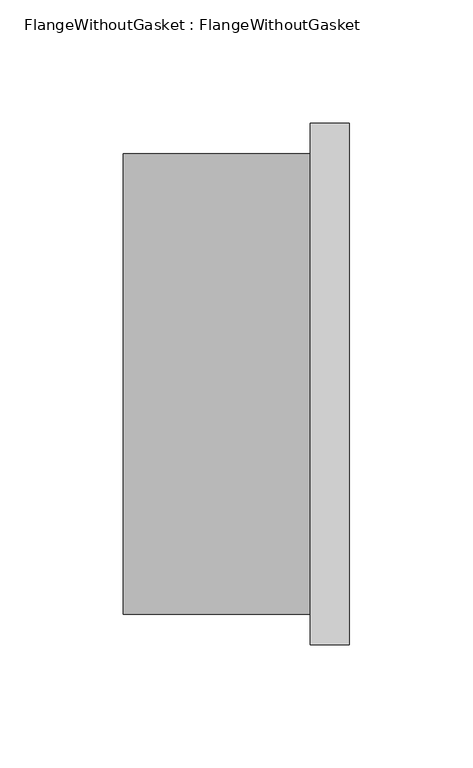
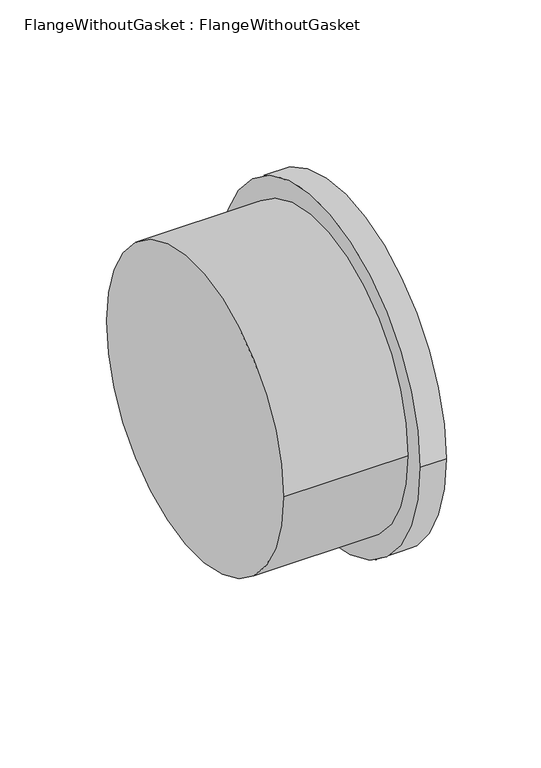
"""IFC4 building model written with IfcOpenShell, lengths in millimetres: pipe fitting geometry, FlangeWithoutGasket : FlangeWithoutGasket."""

import ifcopenshell
import ifcopenshell.guid

model = None  # the IFC model being written
_history = None  # IfcOwnerHistory: only IFC2X3 demands one
_inside = {}  # id of a spatial element -> (the spatial element, [elements in it])
_under = {}  # id of a project, library or spatial element -> (it, [spatial elements below it])
_declared = {}  # id of a project -> (the project, [libraries it declares])
_typed = {}  # id of a type object -> (the type object, [elements of that type])
_made_of = {}  # id of a material, layer set ... -> (it, [elements and type objects made of it])


def new_model(schema):
    """Start an empty IFC model of exactly this schema.

    Asked for "IFC4X3", IfcOpenShell would pick the latest addendum, in which some entities
    have other attributes; the version numbers below select the first issue.
    IFC2X3 requires an IfcOwnerHistory on every rooted entity: one is made here for all.
    """
    global model, _history
    if schema == "IFC4X3":
        model = ifcopenshell.file(schema_version=(4, 3, 0, 0))
    else:
        model = ifcopenshell.file(schema=schema)
    _inside.clear()
    _under.clear()
    _declared.clear()
    _typed.clear()
    _made_of.clear()
    _history = None
    if model.schema == "IFC2X3":
        org = make("IfcOrganization", Name="unknown")
        user = make(
            "IfcPersonAndOrganization",
            ThePerson=make("IfcPerson", FamilyName="unknown"),
            TheOrganization=org,
        )
        app = make(
            "IfcApplication",
            ApplicationDeveloper=org,
            Version="unknown",
            ApplicationFullName="unknown",
            ApplicationIdentifier="unknown",
        )
        _history = make(
            "IfcOwnerHistory",
            OwningUser=user,
            OwningApplication=app,
            ChangeAction="ADDED",
            CreationDate=0,
        )
    return model


def make(cls, **values):
    """One entity of the class cls with the attributes given. An attribute that is None is left unset."""
    return model.create_entity(
        cls, **{name: value for name, value in values.items() if value is not None}
    )


def rooted(cls, **values):
    """An entity with a GlobalId (a new one), such as an element, a storey or a relation."""
    return make(cls, GlobalId=ifcopenshell.guid.new(), OwnerHistory=_history, **values)


def si_unit(unit_type, name, prefix=None):
    """IfcSIUnit, for example si_unit("LENGTHUNIT", "METRE", prefix="MILLI")."""
    return make("IfcSIUnit", UnitType=unit_type, Prefix=prefix, Name=name)


def assignment(units):
    """IfcUnitAssignment: the units of a project."""
    return None if units is None else make("IfcUnitAssignment", Units=units)


def point(xyz):
    """IfcCartesianPoint."""
    return None if xyz is None else make("IfcCartesianPoint", Coordinates=xyz)


def direction(xyz):
    """IfcDirection."""
    return None if xyz is None else make("IfcDirection", DirectionRatios=xyz)


def frame(location, z_axis=None, x_axis=None):
    """IfcAxis2Placement3D, a coordinate frame: its origin and axes. An axis left out is left unset."""
    return make(
        "IfcAxis2Placement3D",
        Location=point(location),
        Axis=direction(z_axis),
        RefDirection=direction(x_axis),
    )


def origin():
    """The frame at (0, 0, 0) with its axes left unset."""
    return frame((0.0, 0.0, 0.0))


def place(relative_to, where):
    """IfcLocalPlacement: puts the frame where relative to a parent placement (None: the world)."""
    return make(
        "IfcLocalPlacement", PlacementRelTo=relative_to, RelativePlacement=where
    )


def context(
    kind, dimensions, precision=None, world=None, true_north=None, identifier=None
):
    """IfcGeometricRepresentationContext, for example the 3D "Model" context."""
    return make(
        "IfcGeometricRepresentationContext",
        ContextIdentifier=identifier,
        ContextType=kind,
        CoordinateSpaceDimension=dimensions,
        Precision=precision,
        WorldCoordinateSystem=world,
        TrueNorth=true_north,
    )


def project(units=None, contexts=None):
    """IfcProject with its units and contexts."""
    return rooted(
        "IfcProject",
        Name="project",
        RepresentationContexts=contexts,
        UnitsInContext=assignment(units),
    )


def spatial(cls, under=None, at=None, **own):
    """A site, building, storey or space (cls), placed at a placement, below another one or the project."""
    s = rooted(cls, ObjectPlacement=at, **own)
    if under is not None:
        _under.setdefault(under.id(), (under, []))[1].append(s)
    return s


def circle_curve(where, radius):
    """IfcCircle in the frame where."""
    return make("IfcCircle", Position=where, Radius=radius)


def shape(context_of_items, identifier, shape_type, items):
    """IfcShapeRepresentation: the items that make up one representation, for example the "Body"."""
    return make(
        "IfcShapeRepresentation",
        ContextOfItems=context_of_items,
        RepresentationIdentifier=identifier,
        RepresentationType=shape_type,
        Items=items,
    )


def source(mapping_origin, context_of_items, identifier, shape_type, items):
    """IfcRepresentationMap: a shape defined once, which mapped items show again and again."""
    return make(
        "IfcRepresentationMap",
        MappingOrigin=mapping_origin,
        MappedRepresentation=shape(context_of_items, identifier, shape_type, items),
    )


def transform(
    local_origin,
    x_axis=None,
    y_axis=None,
    z_axis=None,
    scale=None,
    scale2=None,
    scale3=None,
    uniform=True,
):
    """IfcCartesianTransformationOperator3D, or its non-uniform kind. x_axis, y_axis, z_axis: its Axis1, 2, 3."""
    if uniform:
        return make(
            "IfcCartesianTransformationOperator3D",
            Axis1=direction(x_axis),
            Axis2=direction(y_axis),
            LocalOrigin=point(local_origin),
            Scale=scale,
            Axis3=direction(z_axis),
        )
    return make(
        "IfcCartesianTransformationOperator3DnonUniform",
        Axis1=direction(x_axis),
        Axis2=direction(y_axis),
        LocalOrigin=point(local_origin),
        Scale=scale,
        Axis3=direction(z_axis),
        Scale2=scale2,
        Scale3=scale3,
    )


def mapped(mapping_source, mapping_target):
    """IfcMappedItem: shows the shape of a source again, moved by a transform."""
    return make(
        "IfcMappedItem", MappingSource=mapping_source, MappingTarget=mapping_target
    )


def made_of(thing, what):
    """Note that an element or type object is made of a material, layer set ...; save() writes the relation."""
    if what is not None:
        _made_of.setdefault(what.id(), (what, []))[1].append(thing)
    return thing


def element(
    cls,
    number,
    at=None,
    inside=None,
    cuts=None,
    type_object=None,
    material=None,
    context=None,
    identifier="Body",
    shape_type=None,
    held_by="IfcProductDefinitionShape",
    body=None,
    shapes=None,
    **own,
):
    """One element of the class cls, such as IfcWall. Its Tag is "e" and its number.

    at: its placement. inside: the storey or other place that contains it. cuts: it is an
    opening in that element (IfcRelVoidsElement). A single representation is given by context,
    identifier, shape_type and body (its items); several are given by shapes. held_by: the class
    of the entity that holds the representations. save() writes the other relations.
    """
    e = rooted(cls, Tag="e%d" % number, ObjectPlacement=at, **own)
    if body is not None:
        shapes = [shape(context, identifier, shape_type, body)]
    if shapes is not None:
        e.Representation = make(held_by, Representations=shapes)
    if inside is not None:
        _inside.setdefault(inside.id(), (inside, []))[1].append(e)
    if cuts is not None:
        rooted(
            "IfcRelVoidsElement", RelatingBuildingElement=cuts, RelatedOpeningElement=e
        )
    if type_object is not None:
        _typed.setdefault(type_object.id(), (type_object, []))[1].append(e)
    return made_of(e, material)


def aggregate(whole, parts):
    """IfcRelAggregates: a whole, such as a stair, and the parts it consists of."""
    return rooted("IfcRelAggregates", RelatingObject=whole, RelatedObjects=parts)


def save(model, path):
    """Write the relations noted so far, then the file.

    IfcRelAggregates (storeys below a building ...), IfcRelContainedInSpatialStructure (elements
    in a storey), IfcRelDefinesByType, IfcRelAssociatesMaterial and IfcRelDeclares: one each for
    every whole, place, type object, material and project.
    """
    for whole, parts in _under.values():
        aggregate(whole, parts)
    for where, things in _inside.values():
        rooted(
            "IfcRelContainedInSpatialStructure",
            RelatedElements=things,
            RelatingStructure=where,
        )
    for kind, things in _typed.values():
        rooted("IfcRelDefinesByType", RelatedObjects=things, RelatingType=kind)
    for what, things in _made_of.values():
        rooted("IfcRelAssociatesMaterial", RelatedObjects=things, RelatingMaterial=what)
    for by, libraries in _declared.values():
        rooted("IfcRelDeclares", RelatingContext=by, RelatedDefinitions=libraries)
    model.write(path)


def plane_surface(at):
    """IfcPlane: the flat surface through the origin of the frame at, square to its z axis."""
    return make("IfcPlane", Position=at)


def cylinder_surface(at, radius):
    """IfcCylindricalSurface: all points at the distance radius from the z axis of the frame at."""
    return make("IfcCylindricalSurface", Position=at, Radius=radius)


def advanced_brep(points, edges, surfaces, faces):
    """IfcAdvancedBrep: a solid bounded by faces that lie on surfaces and meet in shared edges.

    An edge is (start, end): straight between two places in points (the first is 0);
    or (start, end, curve); or (start, end, curve, False) where it runs against its curve.
    A face is (place in surfaces, loops), or (place, loops, False) where it looks against
    its surface's normal. A loop lists edges by number (the first is 1), with a minus sign
    where the edge is run from its end to its start. The first loop is the outer one.
    """
    corners = [point(p) for p in points]
    vertices = [make("IfcVertexPoint", VertexGeometry=c) for c in corners]
    made = []
    for start, end, *more in edges:
        made.append(
            make(
                "IfcEdgeCurve",
                EdgeStart=vertices[start],
                EdgeEnd=vertices[end],
                EdgeGeometry=more[0] if more else make("IfcPolyline", Points=[corners[start], corners[end]]),
                SameSense=more[1] if len(more) > 1 else True,
            )
        )
    hull = []
    for where, loops, *sense in faces:
        bounds = []
        for j, loop in enumerate(loops):
            ring = [make("IfcOrientedEdge", EdgeElement=made[abs(k) - 1], Orientation=k > 0) for k in loop]
            bounds.append(
                make(
                    "IfcFaceOuterBound" if j == 0 else "IfcFaceBound",
                    Bound=make("IfcEdgeLoop", EdgeList=ring),
                    Orientation=True,
                )
            )
        hull.append(make("IfcAdvancedFace", Bounds=bounds, FaceSurface=surfaces[where], SameSense=sense[0] if sense else True))
    return make("IfcAdvancedBrep", Outer=make("IfcClosedShell", CfsFaces=hull))


def flangewithoutgasket_flangewithoutgasket_0e128e97(model_context):
    return source(origin(), model_context, "Body", "AdvancedBrep", [
        advanced_brep(
        [(46.0, 106.0, 0.0), (46.0, -106.0, 0.0), (30.0, 106.0, 0.0), (30.0, -106.0, 0.0), (30.0, 93.5, 0.0), (30.0, -93.5, 0.0), (-46.0, -93.5, 0.0), (-46.0, 93.5, 0.0)],
        [
            (0, 1, circle_curve(frame((46.0, 0.0, 0.0), z_axis=(1.0, 0.0, 0.0), x_axis=(0.0, -1.0, 0.0)), 106.0)),
            (1, 0, circle_curve(frame((46.0, 0.0, 0.0), z_axis=(1.0, 0.0, 0.0), x_axis=(0.0, -1.0, 0.0)), 106.0)),
            (2, 3, circle_curve(frame((30.0, 0.0, 0.0), z_axis=(-1.0, 0.0, 0.0), x_axis=(0.0, -1.0, 0.0)), 106.0)),
            (3, 2, circle_curve(frame((30.0, 0.0, 0.0), z_axis=(-1.0, 0.0, 0.0), x_axis=(0.0, -1.0, 0.0)), 106.0)),
            (4, 5, circle_curve(frame((30.0, 0.0, 0.0), z_axis=(1.0, 0.0, 0.0), x_axis=(0.0, 1.0, 0.0)), 93.5)),
            (5, 4, circle_curve(frame((30.0, 0.0, 0.0), z_axis=(1.0, 0.0, 0.0), x_axis=(0.0, 1.0, 0.0)), 93.5)),
            (0, 2),
            (3, 1),
            (6, 7, circle_curve(frame((-46.0, 0.0, 0.0), z_axis=(-1.0, 0.0, 0.0), x_axis=(0.0, 1.0, 0.0)), 93.5)),
            (7, 6, circle_curve(frame((-46.0, 0.0, 0.0), z_axis=(-1.0, 0.0, 0.0), x_axis=(0.0, 1.0, 0.0)), 93.5)),
            (6, 5),
            (4, 7),
        ],
        [
            plane_surface(frame((46.0, 0.0, 0.0), z_axis=(1.0, 0.0, 0.0), x_axis=(0.0, 0.0, 1.0))),
            plane_surface(frame((30.0, 0.0, 0.0), z_axis=(-1.0, 0.0, 0.0), x_axis=(0.0, 0.0, 1.0))),
            cylinder_surface(frame((46.0, 0.0, 0.0), z_axis=(1.0, 0.0, 0.0), x_axis=(0.0, -1.0, 0.0)), 106.0),
            plane_surface(frame((-46.0, 0.0, 0.0), z_axis=(-1.0, 0.0, 0.0), x_axis=(0.0, 0.0, 1.0))),
            cylinder_surface(frame((-46.0, 0.0, 0.0), z_axis=(-1.0, 0.0, 0.0), x_axis=(0.0, 1.0, 0.0)), 93.5),
        ],
        [
            (0, [[1, 2]]),
            (1, [[3, 4], [5, 6]]),
            (2, [[-1, 7, -4, 8]]),
            (2, [[-2, -8, -3, -7]]),
            (3, [[9, 10]]),
            (4, [[-9, 11, -5, 12]]),
            (4, [[-10, -12, -6, -11]]),
        ],
    ),
    ])


if __name__ == "__main__":
    model = new_model("IFC4")
    model_context = context("Model", 3, world=origin())
    ifc_project = project(units=[si_unit("LENGTHUNIT", "METRE", prefix="MILLI")], contexts=[model_context])
    site = spatial("IfcSite", under=ifc_project)
    building = spatial("IfcBuilding", under=site)
    placement = place(None, origin())
    flangewithoutgasket_flangewithoutgasket_shape = flangewithoutgasket_flangewithoutgasket_0e128e97(model_context)
    element("IfcPipeFitting", 1, ObjectType="FlangeWithoutGasket : FlangeWithoutGasket", at=placement, inside=building, context=model_context, shape_type="MappedRepresentation", body=[
        mapped(flangewithoutgasket_flangewithoutgasket_shape, transform((0.0, 0.0, 0.0), x_axis=(1.0, 0.0, 0.0), y_axis=(0.0, 1.0, 0.0), z_axis=(0.0, 0.0, 1.0))),
    ])
    save(model, "model.ifc")
